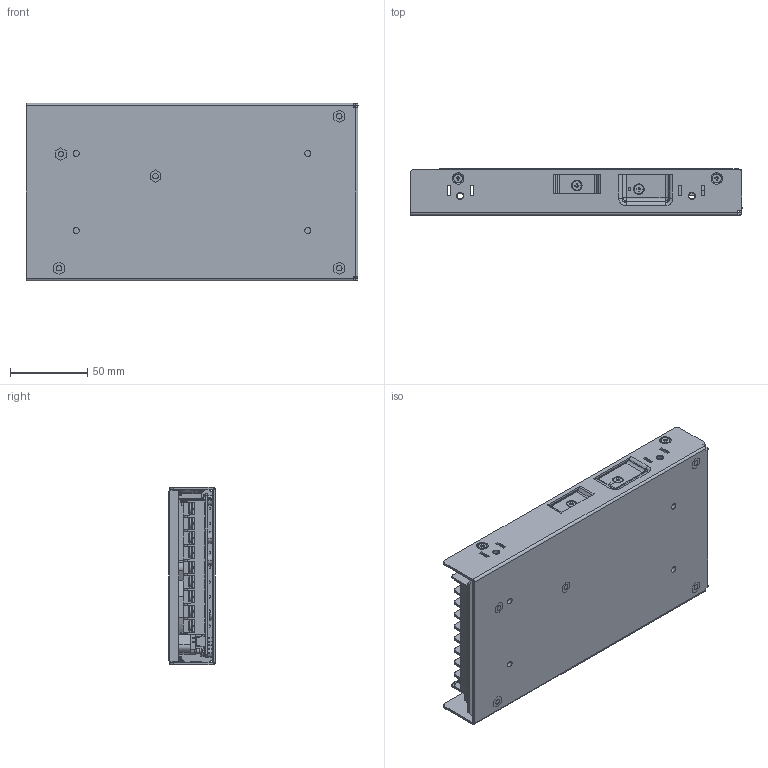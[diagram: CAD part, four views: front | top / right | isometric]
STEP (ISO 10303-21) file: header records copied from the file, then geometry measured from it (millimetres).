
FILE_DESCRIPTION((''),'2;1');
FILE_NAME('PMR-320W_ASM_MKT_ASM','2022-06-21T',('CAREY.WENG'),(''),'CREO PARAMETRIC BY PTC INC, 2014190','CREO PARAMETRIC BY PTC INC, 2014190','');
FILE_SCHEMA(('AUTOMOTIVE_DESIGN { 1 0 10303 214 1 1 1 1 }'));
Products named in the file (44): PMT-320W_CHASSIS_36_1; PMT-320W_COVER_24_1; PMT-320W_LAYOUT_15_1; CHASSIS-STANDOFF_15_1; Q1__3_1_2_1; BLACK_SINGLE_2_1; BD-22-3D5-18D55_6_1; FAN_4_1_1; FAN_4_2_1; FAN_4_3_1; FAN_4_4_1; FAN_4_5_1; FAN_4_6_1; FAN_4_7_1; FAN_4_8_1; FAN_4_9_1; FAN_4_10_1; FAN_4_ASM_1_ASM; SCREW_M3_L10_11_1; SCREW_M4_L6_10_1; PMF-320W_INSULATOR_8_1_1; PMF-320W_INSULATOR_8_2_1; PMF-320W_INSULATOR_8_ASM_1_ASM; A2541WX0-1X2PA-6T_1_1_1_1; BS064116_6_1_1_1; A2541WV0-1EX2PA-6T_ASM_7_ASM__1_ASM; 3071201434_ASM_1_ASM_1_ASM; 202003680008_1_1; PMR-XXV320W1AT__LABEL_1_1_1; PMR-XXV320W1AT__LABEL_1_2_1; PMR-XXV320W1AT__LABEL_1_3_1; PMR-XXV320W1AT__LABEL_1_4_1; PMR-XXV320W1AT__LABEL_1_5_1; PMR-XXV320W1AT__LABEL_1_ASM_1_ASM; TERMINAL_1_1; LED_2306008805_1_1; 0602304110_2_1; 3100300600_1_1_1; 3100300600_1_2_1; 3100300600_1_3_1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
Assembly tree (58 placements, depth 6):
  PMR-320W_ASM_MKT_ASM
    PMR-320W_ASM_MKT_ASM_1_ASM
      PMT-320W_ASM_ASM_57_ASM_1_ASM
        PMT-320W_CHASSIS_36_1
        PMT-320W_COVER_24_1
        PMT-320W_LAYOUT_15_1
        CHASSIS-STANDOFF_15_1  x5
        Q1__3_1_2_1
        BLACK_SINGLE_2_1
        BD-22-3D5-18D55_6_1
        FAN_4_ASM_1_ASM
          FAN_4_1_1
          FAN_4_2_1
          FAN_4_3_1
          FAN_4_4_1
          FAN_4_5_1
          FAN_4_6_1
          FAN_4_7_1
          FAN_4_8_1
          FAN_4_9_1
          FAN_4_10_1
        SCREW_M3_L10_11_1  x2
        SCREW_M4_L6_10_1  x6
        PMF-320W_INSULATOR_8_ASM_1_ASM
          PMF-320W_INSULATOR_8_1_1
          PMF-320W_INSULATOR_8_2_1
        3071201434_ASM_1_ASM_1_ASM
          A2541WV0-1EX2PA-6T_ASM_7_ASM__1_ASM
            A2541WX0-1X2PA-6T_1_1_1_1
            BS064116_6_1_1_1  x2
        202003680008_1_1
        PMR-XXV320W1AT__LABEL_1_ASM_1_ASM
          PMR-XXV320W1AT__LABEL_1_1_1
          PMR-XXV320W1AT__LABEL_1_2_1
          PMR-XXV320W1AT__LABEL_1_3_1
          PMR-XXV320W1AT__LABEL_1_4_1
          PMR-XXV320W1AT__LABEL_1_5_1
        TERMINAL_1_1
        LED_2306008805_1_1
        0602304110_2_1
        3100300600_1_ASM_1_ASM  x5
          3100300600_1_1_1
          3100300600_1_2_1
          3100300600_1_3_1
Bounding box: 215 x 30.25 x 115 mm (x, y, z)
Volume: 155252.5 mm3; surface area: 258231.1 mm2
Topology: 58 solids, 130 shells, 3837 faces, 10961 edges, 7314 vertices
Faces by surface type: plane 2354, cylinder 813, bspline 470, torus 98, cone 88, extrusion 8, sphere 6
Entity records: 160462 total; most frequent: CARTESIAN_POINT 63473, ORIENTED_EDGE 19252, DIRECTION 15654, EDGE_CURVE 9707, VERTEX_POINT 6469, VECTOR 5456, LINE 5454, AXIS2_PLACEMENT_3D 5099
